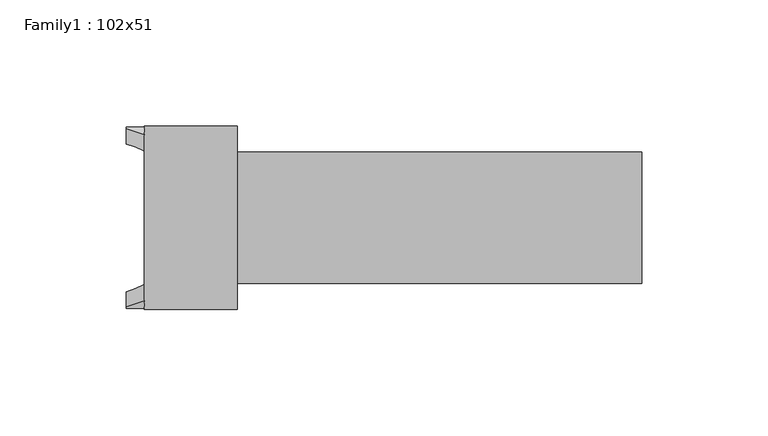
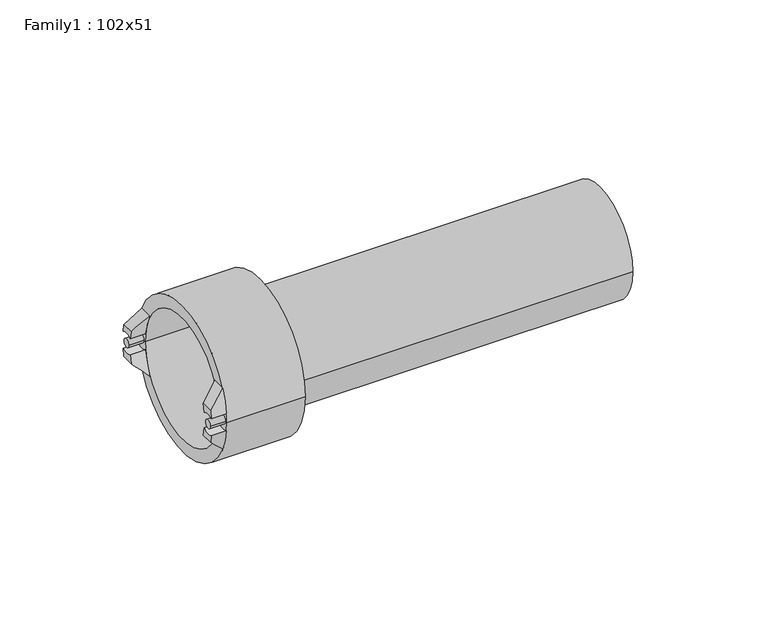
"""IFC4 building model written with IfcOpenShell, lengths in millimetres: proxy geometry, Family1 : 102x51."""

from ifc_helpers import new_model, si_unit, point, frame, frame_2d, origin, place, context, project, spatial, polyline, circle_curve, ellipse_curve, trimmed, segment, composite_curve, outline, extrude, source, transform, mapped, element, save
from ifc_brep_helpers import plane_surface, cylinder_surface, revolved_surface, advanced_brep


def family1_102x51_37351665(model_context):
    return source(origin(), model_context, "Body", "SolidModel", [
        advanced_brep(
        [(-204.0, -30.1005263, 3.8834026), (-204.0, -35.9005263, 4.2396592), (-204.0, -35.2672497, 7.94), (-204.0, -29.2929838, 7.94), (-196.9, -32.8910702, 15.0), (-196.9, -35.9005263, 4.2396592), (-196.9, -30.1005263, 3.8834026), (-196.9, -26.3841335, 15.0)],
        [
            (0, 1, circle_curve(frame((-204.0, -33.25, 0.0), z_axis=(1.0, 0.0, 0.0), x_axis=(0.0, 1.0, 0.0)), 5.0)),
            (1, 2, circle_curve(frame((-204.0, 0.0, 0.0), z_axis=(-1.0, 0.0, 0.0), x_axis=(0.0, 1.0, 0.0)), 36.15)),
            (2, 3),
            (3, 0, circle_curve(frame((-204.0, 0.0, 0.0), z_axis=(1.0, 0.0, 0.0), x_axis=(0.0, 1.0, 0.0)), 30.35)),
            (4, 5, circle_curve(frame((-196.9, 0.0, 0.0), z_axis=(1.0, 0.0, 0.0), x_axis=(0.0, 1.0, 0.0)), 36.15)),
            (5, 6, circle_curve(frame((-196.9, -33.25, 0.0), z_axis=(-1.0, 0.0, 0.0), x_axis=(0.0, 1.0, 0.0)), 5.0)),
            (6, 7, circle_curve(frame((-196.9, 0.0, 0.0), z_axis=(-1.0, 0.0, 0.0), x_axis=(0.0, 1.0, 0.0)), 30.35)),
            (7, 4),
            (6, 0),
            (3, 7, ellipse_curve(frame((-211.9849858, 0.0, 0.0), z_axis=(-0.705106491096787, 0.0, 0.7091014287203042), x_axis=(0.7091014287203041, 0.0, 0.705106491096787)), 43.0431437, 30.35)),
            (4, 2, ellipse_curve(frame((-211.9849858, 0.0, 0.0), z_axis=(0.705106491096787, 0.0, -0.7091014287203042), x_axis=(-0.7091014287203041, 0.0, -0.705106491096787)), 51.2688515, 36.15)),
            (1, 5),
        ],
        [
            plane_surface(frame((-204.0, -32.8910702, 15.0), z_axis=(-1.0, 0.0, 0.0), x_axis=(0.0, 1.0, 0.0))),
            plane_surface(frame((-196.9, -32.8910702, 15.0), z_axis=(1.0, 0.0, 0.0), x_axis=(0.0, -1.0, 0.0))),
            revolved_surface(polyline([(-181.46303110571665, 30.35, 0.0), (-242.50694049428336, 30.35, 0.0)]), (-196.9, 0.0, 0.0), (1.0, 0.0, 0.0)),
            cylinder_surface(frame((-196.9, 0.0, 0.0), z_axis=(-1.0, 0.0, 0.0), x_axis=(0.0, 1.0, 0.0)), 36.15),
            revolved_surface(polyline([(-204.0, -28.25, 0.0), (-196.9, -28.25, 0.0)]), (-196.9, -33.25, 0.0), (-1.0, 0.0, 0.0)),
            plane_surface(frame((-196.9, 36.15, 15.0), z_axis=(-0.705106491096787, 0.0, 0.7091014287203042), x_axis=(0.0, -1.0, 0.0))),
        ],
        [
            (0, [[1, 2, 3, 4]]),
            (1, [[5, 6, 7, 8]]),
            (2, [[-7, 9, -4, 10]]),
            (3, [[-5, 11, -2, 12]]),
            (4, [[-1, -9, -6, -12]]),
            (5, [[-3, -11, -8, -10]]),
        ],
    ),
        advanced_brep(
        [(-204.0, -35.9005263, -4.2396592), (-204.0, -30.1005263, -3.8834026), (-204.0, -29.2929838, -7.94), (-204.0, -35.2672497, -7.94), (-196.9, -35.9005263, -4.2396592), (-196.9, -32.8910702, -15.0), (-196.9, -26.3841335, -15.0), (-196.9, -30.1005263, -3.8834026)],
        [
            (0, 1, circle_curve(frame((-204.0, -33.25, 0.0), z_axis=(1.0, 0.0, 0.0), x_axis=(0.0, 1.0, 0.0)), 5.0)),
            (1, 2, circle_curve(frame((-204.0, 0.0, 0.0), z_axis=(1.0, 0.0, 0.0), x_axis=(0.0, 1.0, 0.0)), 30.35)),
            (2, 3),
            (3, 0, circle_curve(frame((-204.0, 0.0, 0.0), z_axis=(-1.0, 0.0, 0.0), x_axis=(0.0, 1.0, 0.0)), 36.15)),
            (4, 5, circle_curve(frame((-196.9, 0.0, 0.0), z_axis=(1.0, 0.0, 0.0), x_axis=(0.0, 1.0, 0.0)), 36.15)),
            (5, 6),
            (6, 7, circle_curve(frame((-196.9, 0.0, 0.0), z_axis=(-1.0, 0.0, 0.0), x_axis=(0.0, 1.0, 0.0)), 30.35)),
            (7, 4, circle_curve(frame((-196.9, -33.25, 0.0), z_axis=(-1.0, 0.0, 0.0), x_axis=(0.0, 1.0, 0.0)), 5.0)),
            (6, 2, ellipse_curve(frame((-211.9849858, 0.0, 0.0), z_axis=(-0.7051064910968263, 0.0, -0.7091014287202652), x_axis=(0.7091014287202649, 0.0, -0.7051064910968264)), 43.0431437, 30.35)),
            (1, 7),
            (4, 0),
            (3, 5, ellipse_curve(frame((-211.9849858, 0.0, 0.0), z_axis=(0.7051064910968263, 0.0, 0.7091014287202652), x_axis=(-0.7091014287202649, 0.0, 0.7051064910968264)), 51.2688515, 36.15)),
        ],
        [
            plane_surface(frame((-204.0, -32.8910702, 15.0), z_axis=(-1.0, 0.0, 0.0), x_axis=(0.0, 1.0, 0.0))),
            plane_surface(frame((-196.9, -32.8910702, 15.0), z_axis=(1.0, 0.0, 0.0), x_axis=(0.0, -1.0, 0.0))),
            revolved_surface(polyline([(-181.46303110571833, 30.35, 0.0), (-242.50694049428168, 30.35, 0.0)]), (-196.9, 0.0, 0.0), (1.0, 0.0, 0.0)),
            cylinder_surface(frame((-196.9, 0.0, 0.0), z_axis=(-1.0, 0.0, 0.0), x_axis=(0.0, 1.0, 0.0)), 36.15),
            revolved_surface(polyline([(-204.0, -28.25, 0.0), (-196.9, -28.25, 0.0)]), (-196.9, -33.25, 0.0), (-1.0, 0.0, 0.0)),
            plane_surface(frame((-204.0, 36.15, -7.94), z_axis=(-0.7051064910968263, 0.0, -0.7091014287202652), x_axis=(0.0, -1.0, 0.0))),
        ],
        [
            (0, [[1, 2, 3, 4]]),
            (1, [[5, 6, 7, 8]]),
            (2, [[-7, 9, -2, 10]]),
            (3, [[-5, 11, -4, 12]]),
            (4, [[-1, -11, -8, -10]]),
            (5, [[-3, -9, -6, -12]]),
        ],
    ),
        advanced_brep(
        [(-204.0, 35.9005263, 4.2396592), (-204.0, 30.1005263, 3.8834026), (-204.0, 29.2929838, 7.94), (-204.0, 35.2672497, 7.94), (-196.9, 35.9005263, 4.2396592), (-196.9, 32.8910702, 15.0), (-196.9, 26.3841335, 15.0), (-196.9, 30.1005263, 3.8834026)],
        [
            (0, 1, circle_curve(frame((-204.0, 33.25, 0.0), z_axis=(1.0, 0.0, 0.0), x_axis=(0.0, 1.0, 0.0)), 5.0)),
            (1, 2, circle_curve(frame((-204.0, 0.0, 0.0), z_axis=(1.0, 0.0, 0.0), x_axis=(0.0, 1.0, 0.0)), 30.35)),
            (2, 3),
            (3, 0, circle_curve(frame((-204.0, 0.0, 0.0), z_axis=(-1.0, 0.0, 0.0), x_axis=(0.0, 1.0, 0.0)), 36.15)),
            (4, 5, circle_curve(frame((-196.9, 0.0, 0.0), z_axis=(1.0, 0.0, 0.0), x_axis=(0.0, 1.0, 0.0)), 36.15)),
            (5, 6),
            (6, 7, circle_curve(frame((-196.9, 0.0, 0.0), z_axis=(-1.0, 0.0, 0.0), x_axis=(0.0, 1.0, 0.0)), 30.35)),
            (7, 4, circle_curve(frame((-196.9, 33.25, 0.0), z_axis=(-1.0, 0.0, 0.0), x_axis=(0.0, 1.0, 0.0)), 5.0)),
            (6, 2, ellipse_curve(frame((-211.9849858, 0.0, 0.0), z_axis=(-0.705106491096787, 0.0, 0.7091014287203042), x_axis=(0.7091014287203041, 0.0, 0.705106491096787)), 43.0431437, 30.35)),
            (1, 7),
            (4, 0),
            (3, 5, ellipse_curve(frame((-211.9849858, 0.0, 0.0), z_axis=(0.705106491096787, 0.0, -0.7091014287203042), x_axis=(-0.7091014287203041, 0.0, -0.705106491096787)), 51.2688515, 36.15)),
        ],
        [
            plane_surface(frame((-204.0, -32.8910702, 15.0), z_axis=(-1.0, 0.0, 0.0), x_axis=(0.0, 1.0, 0.0))),
            plane_surface(frame((-196.9, -32.8910702, 15.0), z_axis=(1.0, 0.0, 0.0), x_axis=(0.0, -1.0, 0.0))),
            revolved_surface(polyline([(-181.46303110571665, 30.35, 0.0), (-242.50694049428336, 30.35, 0.0)]), (-196.9, 0.0, 0.0), (1.0, 0.0, 0.0)),
            cylinder_surface(frame((-196.9, 0.0, 0.0), z_axis=(-1.0, 0.0, 0.0), x_axis=(0.0, 1.0, 0.0)), 36.15),
            revolved_surface(polyline([(-204.0, 38.25, 0.0), (-196.9, 38.25, 0.0)]), (-196.9, 33.25, 0.0), (-1.0, 0.0, 0.0)),
            plane_surface(frame((-196.9, 36.15, 15.0), z_axis=(-0.705106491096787, 0.0, 0.7091014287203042), x_axis=(0.0, -1.0, 0.0))),
        ],
        [
            (0, [[1, 2, 3, 4]]),
            (1, [[5, 6, 7, 8]]),
            (2, [[-7, 9, -2, 10]]),
            (3, [[-5, 11, -4, 12]]),
            (4, [[-1, -11, -8, -10]]),
            (5, [[-3, -9, -6, -12]]),
        ],
    ),
        advanced_brep(
        [(-204.0, 30.1005263, -3.8834026), (-204.0, 35.9005263, -4.2396592), (-204.0, 35.2672497, -7.94), (-204.0, 29.2929838, -7.94), (-196.9, 32.8910702, -15.0), (-196.9, 35.9005263, -4.2396592), (-196.9, 30.1005263, -3.8834026), (-196.9, 26.3841335, -15.0)],
        [
            (0, 1, circle_curve(frame((-204.0, 33.25, 0.0), z_axis=(1.0, 0.0, 0.0), x_axis=(0.0, 1.0, 0.0)), 5.0)),
            (1, 2, circle_curve(frame((-204.0, 0.0, 0.0), z_axis=(-1.0, 0.0, 0.0), x_axis=(0.0, 1.0, 0.0)), 36.15)),
            (2, 3),
            (3, 0, circle_curve(frame((-204.0, 0.0, 0.0), z_axis=(1.0, 0.0, 0.0), x_axis=(0.0, 1.0, 0.0)), 30.35)),
            (4, 5, circle_curve(frame((-196.9, 0.0, 0.0), z_axis=(1.0, 0.0, 0.0), x_axis=(0.0, 1.0, 0.0)), 36.15)),
            (5, 6, circle_curve(frame((-196.9, 33.25, 0.0), z_axis=(-1.0, 0.0, 0.0), x_axis=(0.0, 1.0, 0.0)), 5.0)),
            (6, 7, circle_curve(frame((-196.9, 0.0, 0.0), z_axis=(-1.0, 0.0, 0.0), x_axis=(0.0, 1.0, 0.0)), 30.35)),
            (7, 4),
            (6, 0),
            (3, 7, ellipse_curve(frame((-211.9849858, 0.0, 0.0), z_axis=(-0.7051064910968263, 0.0, -0.7091014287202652), x_axis=(0.7091014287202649, 0.0, -0.7051064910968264)), 43.0431437, 30.35)),
            (4, 2, ellipse_curve(frame((-211.9849858, 0.0, 0.0), z_axis=(0.7051064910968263, 0.0, 0.7091014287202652), x_axis=(-0.7091014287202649, 0.0, 0.7051064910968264)), 51.2688515, 36.15)),
            (1, 5),
        ],
        [
            plane_surface(frame((-204.0, -32.8910702, 15.0), z_axis=(-1.0, 0.0, 0.0), x_axis=(0.0, 1.0, 0.0))),
            plane_surface(frame((-196.9, -32.8910702, 15.0), z_axis=(1.0, 0.0, 0.0), x_axis=(0.0, -1.0, 0.0))),
            revolved_surface(polyline([(-181.46303110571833, 30.35, 0.0), (-242.50694049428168, 30.35, 0.0)]), (-196.9, 0.0, 0.0), (1.0, 0.0, 0.0)),
            cylinder_surface(frame((-196.9, 0.0, 0.0), z_axis=(-1.0, 0.0, 0.0), x_axis=(0.0, 1.0, 0.0)), 36.15),
            revolved_surface(polyline([(-204.0, 38.25, 0.0), (-196.9, 38.25, 0.0)]), (-196.9, 33.25, 0.0), (-1.0, 0.0, 0.0)),
            plane_surface(frame((-204.0, 36.15, -7.94), z_axis=(-0.7051064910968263, 0.0, -0.7091014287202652), x_axis=(0.0, -1.0, 0.0))),
        ],
        [
            (0, [[1, 2, 3, 4]]),
            (1, [[5, 6, 7, 8]]),
            (2, [[-7, 9, -4, 10]]),
            (3, [[-5, 11, -2, 12]]),
            (4, [[-1, -9, -6, -12]]),
            (5, [[-3, -11, -8, -10]]),
        ],
    ),
        extrude(outline(composite_curve([segment(trimmed(circle_curve(frame_2d((-33.25, 0.0)), 2.0), [point((-35.25, 0.0))], [point((-31.25, 0.0))], False, "CARTESIAN"), True, "CONTINUOUS"), segment(trimmed(circle_curve(frame_2d((-33.25, 0.0)), 2.0), [point((-31.25, 0.0))], [point((-35.25, 0.0))], False, "CARTESIAN"), True, "CONTINUOUS")], self_intersect=False)), frame((-204.0, 0.0, 0.0), z_axis=(1.0, 0.0, 0.0), x_axis=(0.0, 1.0, 0.0)), (0.0, 0.0, 1.0), 7.1),
        extrude(outline(composite_curve([segment(trimmed(circle_curve(frame_2d((33.25, 0.0)), 2.0), [point((31.25, 0.0))], [point((35.25, 0.0))], False, "CARTESIAN"), True, "CONTINUOUS"), segment(trimmed(circle_curve(frame_2d((33.25, 0.0)), 2.0), [point((35.25, 0.0))], [point((31.25, 0.0))], False, "CARTESIAN"), True, "CONTINUOUS")], self_intersect=False)), frame((-204.0, 0.0, 0.0), z_axis=(1.0, 0.0, 0.0), x_axis=(0.0, 1.0, 0.0)), (0.0, 0.0, 1.0), 7.1),
        advanced_brep(
        [(-165.1, -26.0, 0.0), (-165.1, 26.0, 0.0), (-165.1, 30.2, 0.0), (-165.1, -30.2, 0.0), (-160.0, -26.0, 0.0), (-160.0, 26.0, 0.0), (-160.0, -36.3, 0.0), (-160.0, 36.3, 0.0), (-196.9, -36.3, 0.0), (-196.9, 36.3, 0.0), (-196.9, -30.2, 0.0), (-196.9, 30.2, 0.0)],
        [
            (0, 1, circle_curve(frame((-165.1, 0.0, 0.0), z_axis=(1.0, 0.0, 0.0), x_axis=(0.0, 1.0, 0.0)), 26.0)),
            (1, 2),
            (2, 3, circle_curve(frame((-165.1, 0.0, 0.0), z_axis=(-1.0, 0.0, 0.0), x_axis=(0.0, 1.0, 0.0)), 30.2)),
            (3, 0),
            (1, 0, circle_curve(frame((-165.1, 0.0, 0.0), z_axis=(1.0, 0.0, 0.0), x_axis=(0.0, 1.0, 0.0)), 26.0)),
            (3, 2, circle_curve(frame((-165.1, 0.0, 0.0), z_axis=(-1.0, 0.0, 0.0), x_axis=(0.0, 1.0, 0.0)), 30.2)),
            (4, 5, circle_curve(frame((-160.0, 0.0, 0.0), z_axis=(1.0, 0.0, 0.0), x_axis=(0.0, 1.0, 0.0)), 26.0)),
            (5, 1),
            (0, 4),
            (5, 4, circle_curve(frame((-160.0, 0.0, 0.0), z_axis=(1.0, 0.0, 0.0), x_axis=(0.0, 1.0, 0.0)), 26.0)),
            (6, 7, circle_curve(frame((-160.0, 0.0, 0.0), z_axis=(1.0, 0.0, 0.0), x_axis=(0.0, 1.0, 0.0)), 36.3)),
            (7, 5),
            (4, 6),
            (7, 6, circle_curve(frame((-160.0, 0.0, 0.0), z_axis=(1.0, 0.0, 0.0), x_axis=(0.0, 1.0, 0.0)), 36.3)),
            (8, 9, circle_curve(frame((-196.9, 0.0, 0.0), z_axis=(1.0, 0.0, 0.0), x_axis=(0.0, 1.0, 0.0)), 36.3)),
            (9, 7),
            (6, 8),
            (9, 8, circle_curve(frame((-196.9, 0.0, 0.0), z_axis=(1.0, 0.0, 0.0), x_axis=(0.0, 1.0, 0.0)), 36.3)),
            (10, 11, circle_curve(frame((-196.9, 0.0, 0.0), z_axis=(1.0, 0.0, 0.0), x_axis=(0.0, 1.0, 0.0)), 30.2)),
            (11, 9),
            (8, 10),
            (11, 10, circle_curve(frame((-196.9, 0.0, 0.0), z_axis=(1.0, 0.0, 0.0), x_axis=(0.0, 1.0, 0.0)), 30.2)),
            (2, 11),
            (10, 3),
        ],
        [
            plane_surface(frame((-165.1, 0.0, 0.0), z_axis=(-1.0, 0.0, 0.0), x_axis=(0.0, 1.0, 0.0))),
            revolved_surface(polyline([(-165.0999999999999, 26.0, 0.0), (-160.0, 26.0, 0.0)]), (-2710.8826241, 0.0, 0.0), (-1.0, 0.0, 0.0)),
            plane_surface(frame((-160.0, 0.0, 0.0), z_axis=(1.0, 0.0, 0.0), x_axis=(0.0, 1.0, 0.0))),
            cylinder_surface(frame((-2710.8826241, 0.0, 0.0), z_axis=(-1.0, 0.0, 0.0), x_axis=(0.0, 1.0, 0.0)), 36.3),
            plane_surface(frame((-196.9, 0.0, 0.0), z_axis=(-1.0, 0.0, 0.0), x_axis=(0.0, 1.0, 0.0))),
            revolved_surface(polyline([(-196.9000000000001, 30.2, 0.0), (-165.0999999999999, 30.2, 0.0)]), (-2710.8826241, 0.0, 0.0), (-1.0, 0.0, 0.0)),
        ],
        [
            (0, [[1, 2, 3, 4]]),
            (0, [[5, -4, 6, -2]]),
            (1, [[7, 8, -1, 9]]),
            (1, [[10, -9, -5, -8]]),
            (2, [[11, 12, -7, 13]]),
            (2, [[14, -13, -10, -12]]),
            (3, [[15, 16, -11, 17]]),
            (3, [[18, -17, -14, -16]]),
            (4, [[19, 20, -15, 21]]),
            (4, [[22, -21, -18, -20]]),
            (5, [[-3, 23, -19, 24]]),
            (5, [[-6, -24, -22, -23]]),
        ],
    ),
        advanced_brep(
        [(0.0, -26.0, 0.0), (0.0, 26.0, 0.0), (0.0, 0.0, 0.0), (-165.1, -26.0, 0.0), (-165.1, 26.0, 0.0), (-165.1, 0.0, 0.0)],
        [
            (0, 1, circle_curve(frame((0.0, 0.0, 0.0), z_axis=(1.0, 0.0, 0.0), x_axis=(0.0, 1.0, 0.0)), 26.0)),
            (1, 2),
            (2, 0),
            (1, 0, circle_curve(frame((0.0, 0.0, 0.0), z_axis=(1.0, 0.0, 0.0), x_axis=(0.0, 1.0, 0.0)), 26.0)),
            (3, 4, circle_curve(frame((-165.1, 0.0, 0.0), z_axis=(1.0, 0.0, 0.0), x_axis=(0.0, 1.0, 0.0)), 26.0)),
            (4, 1),
            (0, 3),
            (4, 3, circle_curve(frame((-165.1, 0.0, 0.0), z_axis=(1.0, 0.0, 0.0), x_axis=(0.0, 1.0, 0.0)), 26.0)),
            (5, 4),
            (3, 5),
        ],
        [
            plane_surface(frame((0.0, 0.0, 0.0), z_axis=(1.0, 0.0, 0.0), x_axis=(0.0, 1.0, 0.0))),
            cylinder_surface(frame((25.0, 0.0, 0.0), z_axis=(-1.0, 0.0, 0.0), x_axis=(0.0, 1.0, 0.0)), 26.0),
            plane_surface(frame((-165.1, 0.0, 0.0), z_axis=(-1.0, 0.0, 0.0), x_axis=(0.0, 1.0, 0.0))),
        ],
        [
            (0, [[1, 2, 3]]),
            (0, [[4, -3, -2]]),
            (1, [[5, 6, -1, 7]]),
            (1, [[8, -7, -4, -6]]),
            (2, [[9, -5, 10]]),
            (2, [[-10, -8, -9]]),
        ],
    ),
    ])


if __name__ == "__main__":
    model = new_model("IFC4")
    model_context = context("Model", 3, world=origin())
    ifc_project = project(units=[si_unit("LENGTHUNIT", "METRE", prefix="MILLI")], contexts=[model_context])
    site = spatial("IfcSite", under=ifc_project)
    building = spatial("IfcBuilding", under=site)
    placement = place(None, origin())
    family1_102x51_shape = family1_102x51_37351665(model_context)
    element("IfcBuildingElementProxy", 1, Name="Family1 : 102x51", ObjectType="Family1 : 102x51", at=placement, inside=building, context=model_context, shape_type="MappedRepresentation", body=[
        mapped(family1_102x51_shape, transform((0.0, 0.0, 0.0), x_axis=(1.0, 0.0, 0.0), y_axis=(0.0, 1.0, 0.0), z_axis=(0.0, 0.0, 1.0))),
    ])
    save(model, "model.ifc")
